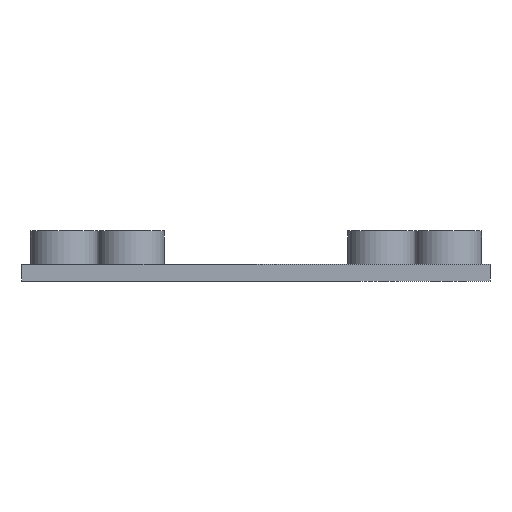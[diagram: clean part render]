
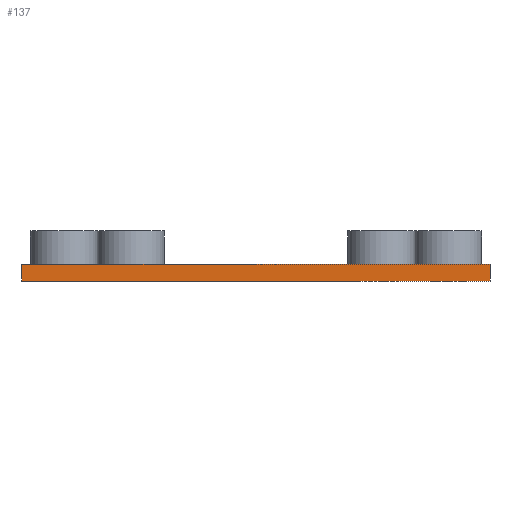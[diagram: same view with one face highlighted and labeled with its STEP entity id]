
A CAD part, front view. The second image highlights one B-rep face of the part: STEP entity #137.
In plain terms, the highlighted planar face has unit normal (0, -1, 0).
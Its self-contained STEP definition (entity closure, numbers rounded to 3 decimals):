
#21 = EDGE_CURVE('',#22,#24,#26,.T.);
#22 = VERTEX_POINT('',#23);
#23 = CARTESIAN_POINT('',(0.,0.,0.));
#24 = VERTEX_POINT('',#25);
#25 = CARTESIAN_POINT('',(0.,0.,4.));
#26 = SURFACE_CURVE('',#27,(#31,#43),.PCURVE_S1.);
#27 = LINE('',#28,#29);
#28 = CARTESIAN_POINT('',(0.,0.,0.));
#29 = VECTOR('',#30,1.);
#30 = DIRECTION('',(0.,0.,1.));
#31 = PCURVE('',#32,#37);
#32 = PLANE('',#33);
#33 = AXIS2_PLACEMENT_3D('',#34,#35,#36);
#34 = CARTESIAN_POINT('',(0.,0.,0.));
#35 = DIRECTION('',(1.,0.,0.));
#36 = DIRECTION('',(0.,0.,1.));
#37 = DEFINITIONAL_REPRESENTATION('',(#38),#42);
#38 = LINE('',#39,#40);
#39 = CARTESIAN_POINT('',(0.,0.));
#40 = VECTOR('',#41,1.);
#41 = DIRECTION('',(1.,0.));
#42 = ( GEOMETRIC_REPRESENTATION_CONTEXT(2) 
PARAMETRIC_REPRESENTATION_CONTEXT() REPRESENTATION_CONTEXT('2D SPACE',''
  ) );
#43 = PCURVE('',#44,#49);
#44 = PLANE('',#45);
#45 = AXIS2_PLACEMENT_3D('',#46,#47,#48);
#46 = CARTESIAN_POINT('',(0.,0.,0.));
#47 = DIRECTION('',(0.,1.,0.));
#48 = DIRECTION('',(0.,0.,1.));
#49 = DEFINITIONAL_REPRESENTATION('',(#50),#54);
#50 = LINE('',#51,#52);
#51 = CARTESIAN_POINT('',(0.,0.));
#52 = VECTOR('',#53,1.);
#53 = DIRECTION('',(1.,0.));
#54 = ( GEOMETRIC_REPRESENTATION_CONTEXT(2) 
PARAMETRIC_REPRESENTATION_CONTEXT() REPRESENTATION_CONTEXT('2D SPACE',''
  ) );
#72 = PLANE('',#73);
#73 = AXIS2_PLACEMENT_3D('',#74,#75,#76);
#74 = CARTESIAN_POINT('',(0.,0.,0.));
#75 = DIRECTION('',(0.,0.,1.));
#76 = DIRECTION('',(1.,0.,0.));
#126 = PLANE('',#127);
#127 = AXIS2_PLACEMENT_3D('',#128,#129,#130);
#128 = CARTESIAN_POINT('',(0.,0.,4.));
#129 = DIRECTION('',(0.,0.,1.));
#130 = DIRECTION('',(1.,0.,0.));
#137 = ADVANCED_FACE('',(#138),#44,.F.);
#138 = FACE_BOUND('',#139,.F.);
#139 = EDGE_LOOP('',(#140,#163,#164,#187));
#140 = ORIENTED_EDGE('',*,*,#141,.F.);
#141 = EDGE_CURVE('',#22,#142,#144,.T.);
#142 = VERTEX_POINT('',#143);
#143 = CARTESIAN_POINT('',(112.,0.,0.));
#144 = SURFACE_CURVE('',#145,(#149,#156),.PCURVE_S1.);
#145 = LINE('',#146,#147);
#146 = CARTESIAN_POINT('',(0.,0.,0.));
#147 = VECTOR('',#148,1.);
#148 = DIRECTION('',(1.,0.,0.));
#149 = PCURVE('',#44,#150);
#150 = DEFINITIONAL_REPRESENTATION('',(#151),#155);
#151 = LINE('',#152,#153);
#152 = CARTESIAN_POINT('',(0.,0.));
#153 = VECTOR('',#154,1.);
#154 = DIRECTION('',(0.,1.));
#155 = ( GEOMETRIC_REPRESENTATION_CONTEXT(2) 
PARAMETRIC_REPRESENTATION_CONTEXT() REPRESENTATION_CONTEXT('2D SPACE',''
  ) );
#156 = PCURVE('',#72,#157);
#157 = DEFINITIONAL_REPRESENTATION('',(#158),#162);
#158 = LINE('',#159,#160);
#159 = CARTESIAN_POINT('',(0.,0.));
#160 = VECTOR('',#161,1.);
#161 = DIRECTION('',(1.,0.));
#162 = ( GEOMETRIC_REPRESENTATION_CONTEXT(2) 
PARAMETRIC_REPRESENTATION_CONTEXT() REPRESENTATION_CONTEXT('2D SPACE',''
  ) );
#163 = ORIENTED_EDGE('',*,*,#21,.T.);
#164 = ORIENTED_EDGE('',*,*,#165,.T.);
#165 = EDGE_CURVE('',#24,#166,#168,.T.);
#166 = VERTEX_POINT('',#167);
#167 = CARTESIAN_POINT('',(112.,0.,4.));
#168 = SURFACE_CURVE('',#169,(#173,#180),.PCURVE_S1.);
#169 = LINE('',#170,#171);
#170 = CARTESIAN_POINT('',(0.,0.,4.));
#171 = VECTOR('',#172,1.);
#172 = DIRECTION('',(1.,0.,0.));
#173 = PCURVE('',#44,#174);
#174 = DEFINITIONAL_REPRESENTATION('',(#175),#179);
#175 = LINE('',#176,#177);
#176 = CARTESIAN_POINT('',(4.,0.));
#177 = VECTOR('',#178,1.);
#178 = DIRECTION('',(0.,1.));
#179 = ( GEOMETRIC_REPRESENTATION_CONTEXT(2) 
PARAMETRIC_REPRESENTATION_CONTEXT() REPRESENTATION_CONTEXT('2D SPACE',''
  ) );
#180 = PCURVE('',#126,#181);
#181 = DEFINITIONAL_REPRESENTATION('',(#182),#186);
#182 = LINE('',#183,#184);
#183 = CARTESIAN_POINT('',(0.,0.));
#184 = VECTOR('',#185,1.);
#185 = DIRECTION('',(1.,0.));
#186 = ( GEOMETRIC_REPRESENTATION_CONTEXT(2) 
PARAMETRIC_REPRESENTATION_CONTEXT() REPRESENTATION_CONTEXT('2D SPACE',''
  ) );
#187 = ORIENTED_EDGE('',*,*,#188,.F.);
#188 = EDGE_CURVE('',#142,#166,#189,.T.);
#189 = SURFACE_CURVE('',#190,(#194,#201),.PCURVE_S1.);
#190 = LINE('',#191,#192);
#191 = CARTESIAN_POINT('',(112.,0.,0.));
#192 = VECTOR('',#193,1.);
#193 = DIRECTION('',(0.,0.,1.));
#194 = PCURVE('',#44,#195);
#195 = DEFINITIONAL_REPRESENTATION('',(#196),#200);
#196 = LINE('',#197,#198);
#197 = CARTESIAN_POINT('',(0.,112.));
#198 = VECTOR('',#199,1.);
#199 = DIRECTION('',(1.,0.));
#200 = ( GEOMETRIC_REPRESENTATION_CONTEXT(2) 
PARAMETRIC_REPRESENTATION_CONTEXT() REPRESENTATION_CONTEXT('2D SPACE',''
  ) );
#201 = PCURVE('',#202,#207);
#202 = PLANE('',#203);
#203 = AXIS2_PLACEMENT_3D('',#204,#205,#206);
#204 = CARTESIAN_POINT('',(112.,0.,0.));
#205 = DIRECTION('',(1.,0.,0.));
#206 = DIRECTION('',(0.,0.,1.));
#207 = DEFINITIONAL_REPRESENTATION('',(#208),#212);
#208 = LINE('',#209,#210);
#209 = CARTESIAN_POINT('',(0.,0.));
#210 = VECTOR('',#211,1.);
#211 = DIRECTION('',(1.,0.));
#212 = ( GEOMETRIC_REPRESENTATION_CONTEXT(2) 
PARAMETRIC_REPRESENTATION_CONTEXT() REPRESENTATION_CONTEXT('2D SPACE',''
  ) );
